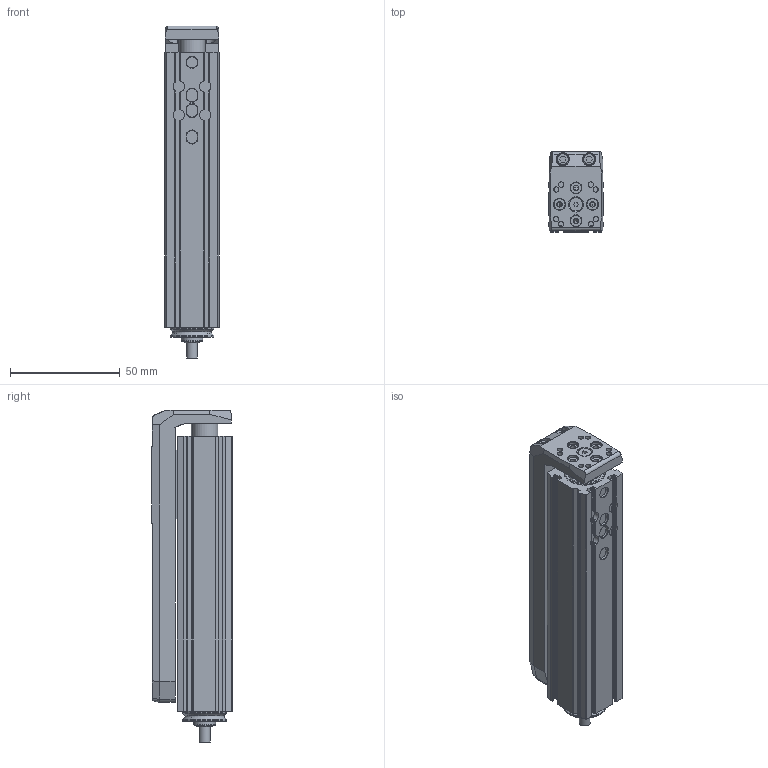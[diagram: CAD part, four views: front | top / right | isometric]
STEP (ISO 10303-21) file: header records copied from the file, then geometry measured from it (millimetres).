
FILE_DESCRIPTION(/* description */ ('STEP AP203'),/* implementation_level */ '2;1');
FILE_NAME(/* name */ 'MSCE 25 0606 75(0)',/* time_stamp */ '2025-02-10T18:35:13+01:00',/* author */ ('License CC BY-ND 4.0'),/* organization */ ('CADENAS'),/* preprocessor_version */ 'ST-DEVELOPER v19.3',/* originating_system */ 'PARTsolutions',/* authorisation */ ' ');
FILE_SCHEMA (('CONFIG_CONTROL_DESIGN'));
Length unit declared in the file: millimetre
Products named in the file (3): MSCE 25 0606 75(0); 25(75)_msce; 25(75)_prp
Assembly tree (2 placements, depth 2):
  MSCE 25 0606 75(0)
    25(75)_msce
    25(75)_prp
Bounding box: 25 x 36.5 x 151 mm (x, y, z)
Volume: 96218.1 mm3; surface area: 44336.3 mm2
Topology: 2 solids, 2 shells, 446 faces, 1162 edges, 761 vertices
Faces by surface type: plane 219, cylinder 198, cone 23, torus 6
Full cylindrical faces by diameter (mm): 2 x2, 2.013 x8, 2.4 x8, 2.459 x4, 5 x6, 5.5 x2, 6 x3, 8 x1, 10 x1, 12 x2, 14.7 x1, 15.4 x1, 18 x1, 19.5 x2, 20 x2
Entity records: 14500 total; most frequent: CARTESIAN_POINT 2567, DIRECTION 2292, ORIENTED_EDGE 2186, EDGE_CURVE 1093, AXIS2_PLACEMENT_3D 832, VERTEX_POINT 757, LINE 628, VECTOR 628
